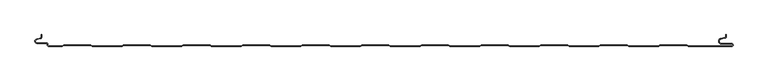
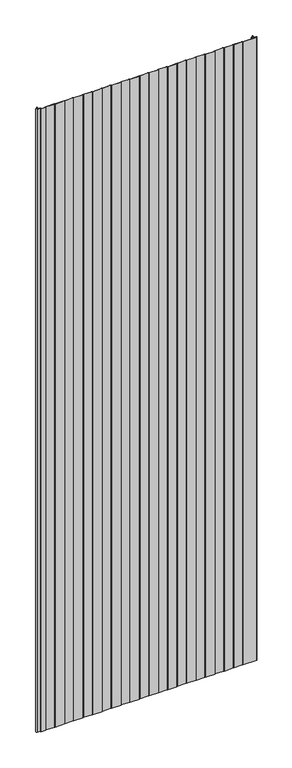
"""IFC4 building model written with IfcOpenShell, lengths in millimetres: plate geometry, PM1_Curtain-Panel_Perfil-Estándar : ACH_PM1_Panel-Acústico-Sectorización_200M."""

import ifcopenshell
import ifcopenshell.guid

model = None  # the IFC model being written
_history = None  # IfcOwnerHistory: only IFC2X3 demands one
_inside = {}  # id of a spatial element -> (the spatial element, [elements in it])
_under = {}  # id of a project, library or spatial element -> (it, [spatial elements below it])
_declared = {}  # id of a project -> (the project, [libraries it declares])
_typed = {}  # id of a type object -> (the type object, [elements of that type])
_made_of = {}  # id of a material, layer set ... -> (it, [elements and type objects made of it])


def new_model(schema):
    """Start an empty IFC model of exactly this schema.

    Asked for "IFC4X3", IfcOpenShell would pick the latest addendum, in which some entities
    have other attributes; the version numbers below select the first issue.
    IFC2X3 requires an IfcOwnerHistory on every rooted entity: one is made here for all.
    """
    global model, _history
    if schema == "IFC4X3":
        model = ifcopenshell.file(schema_version=(4, 3, 0, 0))
    else:
        model = ifcopenshell.file(schema=schema)
    _inside.clear()
    _under.clear()
    _declared.clear()
    _typed.clear()
    _made_of.clear()
    _history = None
    if model.schema == "IFC2X3":
        org = make("IfcOrganization", Name="unknown")
        user = make(
            "IfcPersonAndOrganization",
            ThePerson=make("IfcPerson", FamilyName="unknown"),
            TheOrganization=org,
        )
        app = make(
            "IfcApplication",
            ApplicationDeveloper=org,
            Version="unknown",
            ApplicationFullName="unknown",
            ApplicationIdentifier="unknown",
        )
        _history = make(
            "IfcOwnerHistory",
            OwningUser=user,
            OwningApplication=app,
            ChangeAction="ADDED",
            CreationDate=0,
        )
    return model


def make(cls, **values):
    """One entity of the class cls with the attributes given. An attribute that is None is left unset."""
    return model.create_entity(
        cls, **{name: value for name, value in values.items() if value is not None}
    )


def rooted(cls, **values):
    """An entity with a GlobalId (a new one), such as an element, a storey or a relation."""
    return make(cls, GlobalId=ifcopenshell.guid.new(), OwnerHistory=_history, **values)


def si_unit(unit_type, name, prefix=None):
    """IfcSIUnit, for example si_unit("LENGTHUNIT", "METRE", prefix="MILLI")."""
    return make("IfcSIUnit", UnitType=unit_type, Prefix=prefix, Name=name)


def assignment(units):
    """IfcUnitAssignment: the units of a project."""
    return None if units is None else make("IfcUnitAssignment", Units=units)


def point(xyz):
    """IfcCartesianPoint."""
    return None if xyz is None else make("IfcCartesianPoint", Coordinates=xyz)


def direction(xyz):
    """IfcDirection."""
    return None if xyz is None else make("IfcDirection", DirectionRatios=xyz)


def frame(location, z_axis=None, x_axis=None):
    """IfcAxis2Placement3D, a coordinate frame: its origin and axes. An axis left out is left unset."""
    return make(
        "IfcAxis2Placement3D",
        Location=point(location),
        Axis=direction(z_axis),
        RefDirection=direction(x_axis),
    )


def origin():
    """The frame at (0, 0, 0) with its axes left unset."""
    return frame((0.0, 0.0, 0.0))


def place(relative_to, where):
    """IfcLocalPlacement: puts the frame where relative to a parent placement (None: the world)."""
    return make(
        "IfcLocalPlacement", PlacementRelTo=relative_to, RelativePlacement=where
    )


def context(
    kind, dimensions, precision=None, world=None, true_north=None, identifier=None
):
    """IfcGeometricRepresentationContext, for example the 3D "Model" context."""
    return make(
        "IfcGeometricRepresentationContext",
        ContextIdentifier=identifier,
        ContextType=kind,
        CoordinateSpaceDimension=dimensions,
        Precision=precision,
        WorldCoordinateSystem=world,
        TrueNorth=true_north,
    )


def project(units=None, contexts=None):
    """IfcProject with its units and contexts."""
    return rooted(
        "IfcProject",
        Name="project",
        RepresentationContexts=contexts,
        UnitsInContext=assignment(units),
    )


def spatial(cls, under=None, at=None, **own):
    """A site, building, storey or space (cls), placed at a placement, below another one or the project."""
    s = rooted(cls, ObjectPlacement=at, **own)
    if under is not None:
        _under.setdefault(under.id(), (under, []))[1].append(s)
    return s


def polyline(points):
    """IfcPolyline through the points."""
    return make("IfcPolyline", Points=[point(p) for p in points])


def circle_curve(where, radius):
    """IfcCircle in the frame where."""
    return make("IfcCircle", Position=where, Radius=radius)


def shape(context_of_items, identifier, shape_type, items):
    """IfcShapeRepresentation: the items that make up one representation, for example the "Body"."""
    return make(
        "IfcShapeRepresentation",
        ContextOfItems=context_of_items,
        RepresentationIdentifier=identifier,
        RepresentationType=shape_type,
        Items=items,
    )


def source(mapping_origin, context_of_items, identifier, shape_type, items):
    """IfcRepresentationMap: a shape defined once, which mapped items show again and again."""
    return make(
        "IfcRepresentationMap",
        MappingOrigin=mapping_origin,
        MappedRepresentation=shape(context_of_items, identifier, shape_type, items),
    )


def transform(
    local_origin,
    x_axis=None,
    y_axis=None,
    z_axis=None,
    scale=None,
    scale2=None,
    scale3=None,
    uniform=True,
):
    """IfcCartesianTransformationOperator3D, or its non-uniform kind. x_axis, y_axis, z_axis: its Axis1, 2, 3."""
    if uniform:
        return make(
            "IfcCartesianTransformationOperator3D",
            Axis1=direction(x_axis),
            Axis2=direction(y_axis),
            LocalOrigin=point(local_origin),
            Scale=scale,
            Axis3=direction(z_axis),
        )
    return make(
        "IfcCartesianTransformationOperator3DnonUniform",
        Axis1=direction(x_axis),
        Axis2=direction(y_axis),
        LocalOrigin=point(local_origin),
        Scale=scale,
        Axis3=direction(z_axis),
        Scale2=scale2,
        Scale3=scale3,
    )


def mapped(mapping_source, mapping_target):
    """IfcMappedItem: shows the shape of a source again, moved by a transform."""
    return make(
        "IfcMappedItem", MappingSource=mapping_source, MappingTarget=mapping_target
    )


def made_of(thing, what):
    """Note that an element or type object is made of a material, layer set ...; save() writes the relation."""
    if what is not None:
        _made_of.setdefault(what.id(), (what, []))[1].append(thing)
    return thing


def element(
    cls,
    number,
    at=None,
    inside=None,
    cuts=None,
    type_object=None,
    material=None,
    context=None,
    identifier="Body",
    shape_type=None,
    held_by="IfcProductDefinitionShape",
    body=None,
    shapes=None,
    **own,
):
    """One element of the class cls, such as IfcWall. Its Tag is "e" and its number.

    at: its placement. inside: the storey or other place that contains it. cuts: it is an
    opening in that element (IfcRelVoidsElement). A single representation is given by context,
    identifier, shape_type and body (its items); several are given by shapes. held_by: the class
    of the entity that holds the representations. save() writes the other relations.
    """
    e = rooted(cls, Tag="e%d" % number, ObjectPlacement=at, **own)
    if body is not None:
        shapes = [shape(context, identifier, shape_type, body)]
    if shapes is not None:
        e.Representation = make(held_by, Representations=shapes)
    if inside is not None:
        _inside.setdefault(inside.id(), (inside, []))[1].append(e)
    if cuts is not None:
        rooted(
            "IfcRelVoidsElement", RelatingBuildingElement=cuts, RelatedOpeningElement=e
        )
    if type_object is not None:
        _typed.setdefault(type_object.id(), (type_object, []))[1].append(e)
    return made_of(e, material)


def aggregate(whole, parts):
    """IfcRelAggregates: a whole, such as a stair, and the parts it consists of."""
    return rooted("IfcRelAggregates", RelatingObject=whole, RelatedObjects=parts)


def save(model, path):
    """Write the relations noted so far, then the file.

    IfcRelAggregates (storeys below a building ...), IfcRelContainedInSpatialStructure (elements
    in a storey), IfcRelDefinesByType, IfcRelAssociatesMaterial and IfcRelDeclares: one each for
    every whole, place, type object, material and project.
    """
    for whole, parts in _under.values():
        aggregate(whole, parts)
    for where, things in _inside.values():
        rooted(
            "IfcRelContainedInSpatialStructure",
            RelatedElements=things,
            RelatingStructure=where,
        )
    for kind, things in _typed.values():
        rooted("IfcRelDefinesByType", RelatedObjects=things, RelatingType=kind)
    for what, things in _made_of.values():
        rooted("IfcRelAssociatesMaterial", RelatedObjects=things, RelatingMaterial=what)
    for by, libraries in _declared.values():
        rooted("IfcRelDeclares", RelatingContext=by, RelatedDefinitions=libraries)
    model.write(path)


def plane_surface(at):
    """IfcPlane: the flat surface through the origin of the frame at, square to its z axis."""
    return make("IfcPlane", Position=at)


def cylinder_surface(at, radius):
    """IfcCylindricalSurface: all points at the distance radius from the z axis of the frame at."""
    return make("IfcCylindricalSurface", Position=at, Radius=radius)


def revolved_surface(curve, axis_point, axis_direction):
    """IfcSurfaceOfRevolution: the curve turned about the line through axis_point along axis_direction."""
    return make(
        "IfcSurfaceOfRevolution",
        SweptCurve=make("IfcArbitraryOpenProfileDef", ProfileType="CURVE", Curve=curve),
        AxisPosition=make("IfcAxis1Placement", Location=point(axis_point), Axis=direction(axis_direction)),
    )


def advanced_brep(points, edges, surfaces, faces):
    """IfcAdvancedBrep: a solid bounded by faces that lie on surfaces and meet in shared edges.

    An edge is (start, end): straight between two places in points (the first is 0);
    or (start, end, curve); or (start, end, curve, False) where it runs against its curve.
    A face is (place in surfaces, loops), or (place, loops, False) where it looks against
    its surface's normal. A loop lists edges by number (the first is 1), with a minus sign
    where the edge is run from its end to its start. The first loop is the outer one.
    """
    corners = [point(p) for p in points]
    vertices = [make("IfcVertexPoint", VertexGeometry=c) for c in corners]
    made = []
    for start, end, *more in edges:
        made.append(
            make(
                "IfcEdgeCurve",
                EdgeStart=vertices[start],
                EdgeEnd=vertices[end],
                EdgeGeometry=more[0] if more else make("IfcPolyline", Points=[corners[start], corners[end]]),
                SameSense=more[1] if len(more) > 1 else True,
            )
        )
    hull = []
    for where, loops, *sense in faces:
        bounds = []
        for j, loop in enumerate(loops):
            ring = [make("IfcOrientedEdge", EdgeElement=made[abs(k) - 1], Orientation=k > 0) for k in loop]
            bounds.append(
                make(
                    "IfcFaceOuterBound" if j == 0 else "IfcFaceBound",
                    Bound=make("IfcEdgeLoop", EdgeList=ring),
                    Orientation=True,
                )
            )
        hull.append(make("IfcAdvancedFace", Bounds=bounds, FaceSurface=surfaces[where], SameSense=sense[0] if sense else True))
    return make("IfcAdvancedBrep", Outer=make("IfcClosedShell", CfsFaces=hull))


def plate_293336a9(model_context):
    return source(origin(), model_context, "Body", "AdvancedBrep", [
        advanced_brep(
        [(-562.4, -200.0, 3500.0), (-539.3999999, -200.0, 3500.0), (-536.8019223, -198.5, 3500.0), (-492.0019247, -198.5, 3500.0), (-489.4038471, -200.0, 3500.0), (-439.3999999, -200.0, 3500.0), (-436.8019223, -198.5, 3500.0), (-392.0019247, -198.5, 3500.0), (-389.4038471, -200.0, 3500.0), (-339.3999999, -200.0, 3500.0), (-336.8019223, -198.5, 3500.0), (-292.0019247, -198.5, 3500.0), (-289.4038471, -200.0, 3500.0), (-239.3999999, -200.0, 3500.0), (-236.8019223, -198.5, 3500.0), (-192.0019247, -198.5, 3500.0), (-189.4038471, -200.0, 3500.0), (-139.3999999, -200.0, 3500.0), (-136.8019223, -198.5, 3500.0), (-92.0019247, -198.5, 3500.0), (-89.4038471, -200.0, 3500.0), (-39.3999999, -200.0, 3500.0), (-36.8019223, -198.5, 3500.0), (7.9980753, -198.5, 3500.0), (10.5961529, -200.0, 3500.0), (60.6000001, -200.0, 3500.0), (63.1980777, -198.5, 3500.0), (107.9980753, -198.5, 3500.0), (110.5961529, -200.0, 3500.0), (160.6000001, -200.0, 3500.0), (163.1980777, -198.5, 3500.0), (207.9980753, -198.5, 3500.0), (210.5961529, -200.0, 3500.0), (260.6000001, -200.0, 3500.0), (263.1980777, -198.5, 3500.0), (307.9980753, -198.5, 3500.0), (310.5961529, -200.0, 3500.0), (360.6000001, -200.0, 3500.0), (363.1980777, -198.5, 3500.0), (407.9980753, -198.5, 3500.0), (410.5961529, -200.0, 3500.0), (460.6000001, -200.0, 3500.0), (463.1980777, -198.5, 3500.0), (507.9980753, -198.5, 3500.0), (510.5961529, -200.0, 3500.0), (583.1, -200.0, 3500.0), (585.6, -197.5, 3500.0), (583.1, -195.0, 3500.0), (566.1, -195.0, 3500.0), (565.4054075, -187.060769, 3500.0), (571.8514851, -185.924152, 3500.0), (574.0, -183.363652, 3500.0), (574.0, -180.0, 3500.0), (573.2, -180.0, 3500.0), (573.2, -183.363652, 3500.0), (571.7125666, -185.136306, 3500.0), (565.266489, -186.2729229, 3500.0), (566.1, -195.8, 3500.0), (583.1, -195.8, 3500.0), (583.1, -199.2, 3500.0), (510.8105122, -199.2, 3500.0), (508.2124346, -197.7, 3500.0), (462.9837184, -197.7, 3500.0), (460.3856408, -199.2, 3500.0), (410.8105122, -199.2, 3500.0), (408.2124346, -197.7, 3500.0), (362.9837184, -197.7, 3500.0), (360.3856408, -199.2, 3500.0), (310.8105122, -199.2, 3500.0), (308.2124346, -197.7, 3500.0), (262.9837184, -197.7, 3500.0), (260.3856408, -199.2, 3500.0), (210.8105122, -199.2, 3500.0), (208.2124346, -197.7, 3500.0), (162.9837184, -197.7, 3500.0), (160.3856408, -199.2, 3500.0), (110.8105122, -199.2, 3500.0), (108.2124346, -197.7, 3500.0), (62.9837184, -197.7, 3500.0), (60.3856408, -199.2, 3500.0), (10.8105122, -199.2, 3500.0), (8.2124346, -197.7, 3500.0), (-37.0162816, -197.7, 3500.0), (-39.6143592, -199.2, 3500.0), (-89.1894878, -199.2, 3500.0), (-91.7875654, -197.7, 3500.0), (-137.0162816, -197.7, 3500.0), (-139.6143592, -199.2, 3500.0), (-189.1894878, -199.2, 3500.0), (-191.7875654, -197.7, 3500.0), (-237.0162816, -197.7, 3500.0), (-239.6143592, -199.2, 3500.0), (-289.1894878, -199.2, 3500.0), (-291.7875654, -197.7, 3500.0), (-337.0162816, -197.7, 3500.0), (-339.6143592, -199.2, 3500.0), (-389.1894878, -199.2, 3500.0), (-391.7875654, -197.7, 3500.0), (-437.0162816, -197.7, 3500.0), (-439.6143592, -199.2, 3500.0), (-489.1894878, -199.2, 3500.0), (-491.7875654, -197.7, 3500.0), (-537.0162816, -197.7, 3500.0), (-539.6143592, -199.2, 3500.0), (-562.4, -199.2, 3500.0), (-563.6, -198.0, 3500.0), (-563.6, -196.6, 3500.0), (-566.4, -193.8, 3500.0), (-581.9, -193.8, 3500.0), (-582.529863, -188.2717638, 3500.0), (-576.370137, -186.849679, 3500.0), (-574.2, -184.121443, 3500.0), (-574.2, -180.0, 3500.0), (-575.0, -180.0, 3500.0), (-575.0, -184.121443, 3500.0), (-576.5500978, -186.0701831, 3500.0), (-582.7098239, -187.492268, 3500.0), (-581.9, -194.6, 3500.0), (-566.4, -194.6, 3500.0), (-564.4, -196.6, 3500.0), (-564.4, -198.0, 3500.0), (-562.4, -200.0, 0.0), (-564.4, -198.0, 0.0), (-564.4, -196.6, 0.0), (-566.4, -194.6, 0.0), (-581.9, -194.6, 0.0), (-582.7098239, -187.4922678, 0.0), (-576.5500979, -186.070183, 0.0), (-575.0, -184.121443, 0.0), (-575.0, -180.0, 0.0), (-574.2, -180.0, 0.0), (-574.2, -184.121443, 0.0), (-576.370137, -186.8496792, 0.0), (-582.529863, -188.271764, 0.0), (-581.9, -193.8, 0.0), (-566.4, -193.8, 0.0), (-563.6, -196.6, 0.0), (-563.6, -198.0, 0.0), (-562.4, -199.2, 0.0), (-539.6143592, -199.2, 0.0), (-537.0162816, -197.7, 0.0), (-491.7875654, -197.7, 0.0), (-489.1894878, -199.2, 0.0), (-439.6143592, -199.2, 0.0), (-437.0162816, -197.7, 0.0), (-391.7875654, -197.7, 0.0), (-389.1894878, -199.2, 0.0), (-339.6143592, -199.2, 0.0), (-337.0162816, -197.7, 0.0), (-291.7875654, -197.7, 0.0), (-289.1894878, -199.2, 0.0), (-239.6143592, -199.2, 0.0), (-237.0162816, -197.7, 0.0), (-191.7875654, -197.7, 0.0), (-189.1894878, -199.2, 0.0), (-139.6143592, -199.2, 0.0), (-137.0162816, -197.7, 0.0), (-91.7875654, -197.7, 0.0), (-89.1894878, -199.2, 0.0), (-39.6143592, -199.2, 0.0), (-37.0162816, -197.7, 0.0), (8.2124346, -197.7, 0.0), (10.8105122, -199.2, 0.0), (60.3856408, -199.2, 0.0), (62.9837184, -197.7, 0.0), (108.2124346, -197.7, 0.0), (110.8105122, -199.2, 0.0), (160.3856408, -199.2, 0.0), (162.9837184, -197.7, 0.0), (208.2124346, -197.7, 0.0), (210.8105122, -199.2, 0.0), (260.3856408, -199.2, 0.0), (262.9837184, -197.7, 0.0), (308.2124346, -197.7, 0.0), (310.8105122, -199.2, 0.0), (360.3856408, -199.2, 0.0), (362.9837184, -197.7, 0.0), (408.2124346, -197.7, 0.0), (410.8105122, -199.2, 0.0), (460.3856408, -199.2, 0.0), (462.9837184, -197.7, 0.0), (508.2124346, -197.7, 0.0), (510.8105122, -199.2, 0.0), (583.1, -199.2, 0.0), (583.1, -195.8, 0.0), (566.1, -195.8, 0.0), (565.266489, -186.2729227, 0.0), (571.7125666, -185.1363058, 0.0), (573.2, -183.363652, 0.0), (573.2, -180.0, 0.0), (574.0, -180.0, 0.0), (574.0, -183.363652, 0.0), (571.8514851, -185.9241522, 0.0), (565.4054075, -187.0607691, 0.0), (566.1, -195.0, 0.0), (583.1, -195.0, 0.0), (585.6, -197.5, 0.0), (583.1, -200.0, 0.0), (510.5961529, -200.0, 0.0), (507.9980753, -198.5, 0.0), (463.1980777, -198.5, 0.0), (460.6000001, -200.0, 0.0), (410.5961529, -200.0, 0.0), (407.9980753, -198.5, 0.0), (363.1980777, -198.5, 0.0), (360.6000001, -200.0, 0.0), (310.5961529, -200.0, 0.0), (307.9980753, -198.5, 0.0), (263.1980777, -198.5, 0.0), (260.6000001, -200.0, 0.0), (210.5961529, -200.0, 0.0), (207.9980753, -198.5, 0.0), (163.1980777, -198.5, 0.0), (160.6000001, -200.0, 0.0), (110.5961529, -200.0, 0.0), (107.9980753, -198.5, 0.0), (63.1980777, -198.5, 0.0), (60.6000001, -200.0, 0.0), (10.5961529, -200.0, 0.0), (7.9980753, -198.5, 0.0), (-36.8019223, -198.5, 0.0), (-39.3999999, -200.0, 0.0), (-89.4038471, -200.0, 0.0), (-92.0019247, -198.5, 0.0), (-136.8019223, -198.5, 0.0), (-139.3999999, -200.0, 0.0), (-189.4038471, -200.0, 0.0), (-192.0019247, -198.5, 0.0), (-236.8019223, -198.5, 0.0), (-239.3999999, -200.0, 0.0), (-289.4038471, -200.0, 0.0), (-292.0019247, -198.5, 0.0), (-336.8019223, -198.5, 0.0), (-339.3999999, -200.0, 0.0), (-389.4038471, -200.0, 0.0), (-392.0019247, -198.5, 0.0), (-436.8019223, -198.5, 0.0), (-439.3999999, -200.0, 0.0), (-489.4038471, -200.0, 0.0), (-492.0019247, -198.5, 0.0), (-536.8019223, -198.5, 0.0), (-539.3999999, -200.0, 0.0)],
        [
            (0, 1),
            (1, 2),
            (2, 3),
            (3, 4),
            (4, 5),
            (5, 6),
            (6, 7),
            (7, 8),
            (8, 9),
            (9, 10),
            (10, 11),
            (11, 12),
            (12, 13),
            (13, 14),
            (14, 15),
            (15, 16),
            (16, 17),
            (17, 18),
            (18, 19),
            (19, 20),
            (20, 21),
            (21, 22),
            (22, 23),
            (23, 24),
            (24, 25),
            (25, 26),
            (26, 27),
            (27, 28),
            (28, 29),
            (29, 30),
            (30, 31),
            (31, 32),
            (32, 33),
            (33, 34),
            (34, 35),
            (35, 36),
            (36, 37),
            (37, 38),
            (38, 39),
            (39, 40),
            (40, 41),
            (41, 42),
            (42, 43),
            (43, 44),
            (44, 45),
            (45, 46, circle_curve(frame((583.1, -197.5, 3500.0), z_axis=(0.0, 0.0, 1.0), x_axis=(1.0, 0.0, 0.0)), 2.5)),
            (46, 47, circle_curve(frame((583.1, -197.5, 3500.0), z_axis=(0.0, 0.0, 1.0), x_axis=(1.0, 0.0, 0.0)), 2.5)),
            (47, 48),
            (48, 49, circle_curve(frame((566.1, -191.0, 3500.0), z_axis=(0.0, 0.0, -1.0), x_axis=(1.0, 0.0, 0.0)), 4.0)),
            (49, 50),
            (50, 51, circle_curve(frame((571.4, -183.363652, 3500.0), z_axis=(0.0, 0.0, 1.0), x_axis=(1.0, 0.0, 0.0)), 2.6)),
            (51, 52),
            (52, 53),
            (53, 54),
            (54, 55, circle_curve(frame((571.4, -183.363652, 3500.0), z_axis=(0.0, 0.0, -1.0), x_axis=(1.0, 0.0, 0.0)), 1.8)),
            (55, 56),
            (56, 57, circle_curve(frame((566.1, -191.0, 3500.0), z_axis=(0.0, 0.0, 1.0), x_axis=(1.0, 0.0, 0.0)), 4.8)),
            (57, 58),
            (58, 59, circle_curve(frame((583.1, -197.5, 3500.0), z_axis=(0.0, 0.0, -1.0), x_axis=(1.0, 0.0, 0.0)), 1.7)),
            (59, 60),
            (60, 61),
            (61, 62),
            (62, 63),
            (63, 64),
            (64, 65),
            (65, 66),
            (66, 67),
            (67, 68),
            (68, 69),
            (69, 70),
            (70, 71),
            (71, 72),
            (72, 73),
            (73, 74),
            (74, 75),
            (75, 76),
            (76, 77),
            (77, 78),
            (78, 79),
            (79, 80),
            (80, 81),
            (81, 82),
            (82, 83),
            (83, 84),
            (84, 85),
            (85, 86),
            (86, 87),
            (87, 88),
            (88, 89),
            (89, 90),
            (90, 91),
            (91, 92),
            (92, 93),
            (93, 94),
            (94, 95),
            (95, 96),
            (96, 97),
            (97, 98),
            (98, 99),
            (99, 100),
            (100, 101),
            (101, 102),
            (102, 103),
            (103, 104),
            (104, 105, circle_curve(frame((-562.4, -198.0, 3500.0), z_axis=(0.0, 0.0, -1.0), x_axis=(1.0, 0.0, 0.0)), 1.2)),
            (105, 106),
            (106, 107, circle_curve(frame((-566.4, -196.6, 3500.0), z_axis=(0.0, 0.0, 1.0), x_axis=(1.0, 0.0, 0.0)), 2.8)),
            (107, 108),
            (108, 109, circle_curve(frame((-581.9, -191.0, 3500.0), z_axis=(0.0, 0.0, -1.0), x_axis=(1.0, 0.0, 0.0)), 2.8)),
            (109, 110),
            (110, 111, circle_curve(frame((-577.0, -184.121443, 3500.0), z_axis=(0.0, 0.0, 1.0), x_axis=(1.0, 0.0, 0.0)), 2.8)),
            (111, 112),
            (112, 113),
            (113, 114),
            (114, 115, circle_curve(frame((-577.0, -184.121443, 3500.0), z_axis=(0.0, 0.0, -1.0), x_axis=(1.0, 0.0, 0.0)), 2.0)),
            (115, 116),
            (116, 117, circle_curve(frame((-581.9, -191.0, 3500.0), z_axis=(0.0, 0.0, 1.0), x_axis=(1.0, 0.0, 0.0)), 3.6)),
            (117, 118),
            (118, 119, circle_curve(frame((-566.4, -196.6, 3500.0), z_axis=(0.0, 0.0, -1.0), x_axis=(1.0, 0.0, 0.0)), 2.0)),
            (119, 120),
            (120, 0, circle_curve(frame((-562.4, -198.0, 3500.0), z_axis=(0.0, 0.0, 1.0), x_axis=(1.0, 0.0, 0.0)), 2.0)),
            (121, 122, circle_curve(frame((-562.4, -198.0, 0.0), z_axis=(0.0, 0.0, -1.0), x_axis=(1.0, 0.0, 0.0)), 2.0)),
            (122, 123),
            (123, 124, circle_curve(frame((-566.4, -196.6, 0.0), z_axis=(0.0, 0.0, 1.0), x_axis=(1.0, 0.0, 0.0)), 2.0)),
            (124, 125),
            (125, 126, circle_curve(frame((-581.9, -191.0, 0.0), z_axis=(0.0, 0.0, -1.0), x_axis=(1.0, 0.0, 0.0)), 3.6)),
            (126, 127),
            (127, 128, circle_curve(frame((-577.0, -184.121443, 0.0), z_axis=(0.0, 0.0, 1.0), x_axis=(1.0, 0.0, 0.0)), 2.0)),
            (128, 129),
            (129, 130),
            (130, 131),
            (131, 132, circle_curve(frame((-577.0, -184.121443, 0.0), z_axis=(0.0, 0.0, -1.0), x_axis=(1.0, 0.0, 0.0)), 2.8)),
            (132, 133),
            (133, 134, circle_curve(frame((-581.9, -191.0, 0.0), z_axis=(0.0, 0.0, 1.0), x_axis=(1.0, 0.0, 0.0)), 2.8)),
            (134, 135),
            (135, 136, circle_curve(frame((-566.4, -196.6, 0.0), z_axis=(0.0, 0.0, -1.0), x_axis=(1.0, 0.0, 0.0)), 2.8)),
            (136, 137),
            (137, 138, circle_curve(frame((-562.4, -198.0, 0.0), z_axis=(0.0, 0.0, 1.0), x_axis=(1.0, 0.0, 0.0)), 1.2)),
            (138, 139),
            (139, 140),
            (140, 141),
            (141, 142),
            (142, 143),
            (143, 144),
            (144, 145),
            (145, 146),
            (146, 147),
            (147, 148),
            (148, 149),
            (149, 150),
            (150, 151),
            (151, 152),
            (152, 153),
            (153, 154),
            (154, 155),
            (155, 156),
            (156, 157),
            (157, 158),
            (158, 159),
            (159, 160),
            (160, 161),
            (161, 162),
            (162, 163),
            (163, 164),
            (164, 165),
            (165, 166),
            (166, 167),
            (167, 168),
            (168, 169),
            (169, 170),
            (170, 171),
            (171, 172),
            (172, 173),
            (173, 174),
            (174, 175),
            (175, 176),
            (176, 177),
            (177, 178),
            (178, 179),
            (179, 180),
            (180, 181),
            (181, 182),
            (182, 183),
            (183, 184, circle_curve(frame((583.1, -197.5, 0.0), z_axis=(0.0, 0.0, 1.0), x_axis=(1.0, 0.0, 0.0)), 1.7)),
            (184, 185),
            (185, 186, circle_curve(frame((566.1, -191.0, 0.0), z_axis=(0.0, 0.0, -1.0), x_axis=(1.0, 0.0, 0.0)), 4.8)),
            (186, 187),
            (187, 188, circle_curve(frame((571.4, -183.363652, 0.0), z_axis=(0.0, 0.0, 1.0), x_axis=(1.0, 0.0, 0.0)), 1.8)),
            (188, 189),
            (189, 190),
            (190, 191),
            (191, 192, circle_curve(frame((571.4, -183.363652, 0.0), z_axis=(0.0, 0.0, -1.0), x_axis=(1.0, 0.0, 0.0)), 2.6)),
            (192, 193),
            (193, 194, circle_curve(frame((566.1, -191.0, 0.0), z_axis=(0.0, 0.0, 1.0), x_axis=(1.0, 0.0, 0.0)), 4.0)),
            (194, 195),
            (195, 196, circle_curve(frame((583.1, -197.5, 0.0), z_axis=(0.0, 0.0, -1.0), x_axis=(1.0, 0.0, 0.0)), 2.5)),
            (196, 197, circle_curve(frame((583.1, -197.5, 0.0), z_axis=(0.0, 0.0, -1.0), x_axis=(1.0, 0.0, 0.0)), 2.5)),
            (197, 198),
            (198, 199),
            (199, 200),
            (200, 201),
            (201, 202),
            (202, 203),
            (203, 204),
            (204, 205),
            (205, 206),
            (206, 207),
            (207, 208),
            (208, 209),
            (209, 210),
            (210, 211),
            (211, 212),
            (212, 213),
            (213, 214),
            (214, 215),
            (215, 216),
            (216, 217),
            (217, 218),
            (218, 219),
            (219, 220),
            (220, 221),
            (221, 222),
            (222, 223),
            (223, 224),
            (224, 225),
            (225, 226),
            (226, 227),
            (227, 228),
            (228, 229),
            (229, 230),
            (230, 231),
            (231, 232),
            (232, 233),
            (233, 234),
            (234, 235),
            (235, 236),
            (236, 237),
            (237, 238),
            (238, 239),
            (239, 240),
            (240, 241),
            (241, 121),
            (0, 121),
            (241, 1),
            (240, 2),
            (239, 3),
            (238, 4),
            (237, 5),
            (236, 6),
            (235, 7),
            (234, 8),
            (233, 9),
            (232, 10),
            (231, 11),
            (230, 12),
            (229, 13),
            (228, 14),
            (227, 15),
            (226, 16),
            (225, 17),
            (224, 18),
            (223, 19),
            (222, 20),
            (221, 21),
            (220, 22),
            (219, 23),
            (218, 24),
            (217, 25),
            (216, 26),
            (215, 27),
            (214, 28),
            (213, 29),
            (212, 30),
            (211, 31),
            (210, 32),
            (209, 33),
            (208, 34),
            (207, 35),
            (206, 36),
            (205, 37),
            (204, 38),
            (203, 39),
            (202, 40),
            (201, 41),
            (200, 42),
            (199, 43),
            (198, 44),
            (197, 45),
            (195, 47),
            (194, 48),
            (193, 49),
            (192, 50),
            (191, 51),
            (190, 52),
            (189, 53),
            (188, 54),
            (187, 55),
            (186, 56),
            (185, 57),
            (184, 58),
            (183, 59),
            (182, 60),
            (181, 61),
            (180, 62),
            (179, 63),
            (178, 64),
            (177, 65),
            (176, 66),
            (175, 67),
            (174, 68),
            (173, 69),
            (172, 70),
            (171, 71),
            (170, 72),
            (169, 73),
            (168, 74),
            (167, 75),
            (166, 76),
            (165, 77),
            (164, 78),
            (163, 79),
            (162, 80),
            (161, 81),
            (160, 82),
            (159, 83),
            (158, 84),
            (157, 85),
            (156, 86),
            (155, 87),
            (154, 88),
            (153, 89),
            (152, 90),
            (151, 91),
            (150, 92),
            (149, 93),
            (148, 94),
            (147, 95),
            (146, 96),
            (145, 97),
            (144, 98),
            (143, 99),
            (142, 100),
            (141, 101),
            (140, 102),
            (139, 103),
            (138, 104),
            (137, 105),
            (136, 106),
            (135, 107),
            (134, 108),
            (133, 109),
            (132, 110),
            (131, 111),
            (130, 112),
            (129, 113),
            (128, 114),
            (127, 115),
            (126, 116),
            (125, 117),
            (124, 118),
            (123, 119),
            (122, 120),
        ],
        [
            plane_surface(frame((-575.0, -200.0, 3500.0), z_axis=(0.0, 0.0, 1.0), x_axis=(0.0, 1.0, 0.0))),
            plane_surface(frame((-575.0, -200.0, 0.0), z_axis=(0.0, 0.0, -1.0), x_axis=(0.0, 1.0, 0.0))),
            plane_surface(frame((-562.4, -200.0, 3500.0), z_axis=(0.0, -1.0, 0.0), x_axis=(0.0, 0.0, -1.0))),
            plane_surface(frame((-539.3999999, -200.0, 3500.0), z_axis=(0.49999979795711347, -0.8660255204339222, 0.0), x_axis=(0.0, 0.0, -1.0))),
            plane_surface(frame((-536.8019223, -198.5, 3500.0), z_axis=(0.0, -1.0, 0.0), x_axis=(0.0, 0.0, -1.0))),
            plane_surface(frame((-492.0019247, -198.5, 3500.0), z_axis=(-0.49999979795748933, -0.8660255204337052, 0.0), x_axis=(0.0, 0.0, -1.0))),
            plane_surface(frame((-489.4038471, -200.0, 3500.0), z_axis=(0.0, -1.0, 0.0), x_axis=(0.0, 0.0, -1.0))),
            plane_surface(frame((-439.3999999, -200.0, 3500.0), z_axis=(0.49999979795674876, -0.8660255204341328, 0.0), x_axis=(0.0, 0.0, -1.0))),
            plane_surface(frame((-436.8019223, -198.5, 3500.0), z_axis=(0.0, -1.0, 0.0), x_axis=(0.0, 0.0, -1.0))),
            plane_surface(frame((-392.0019247, -198.5, 3500.0), z_axis=(-0.4999997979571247, -0.8660255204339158, 0.0), x_axis=(0.0, 0.0, -1.0))),
            plane_surface(frame((-389.4038471, -200.0, 3500.0), z_axis=(0.0, -1.0, 0.0), x_axis=(0.0, 0.0, -1.0))),
            plane_surface(frame((-339.3999999, -200.0, 3500.0), z_axis=(0.49999979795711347, -0.8660255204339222, 0.0), x_axis=(0.0, 0.0, -1.0))),
            plane_surface(frame((-336.8019223, -198.5, 3500.0), z_axis=(0.0, -1.0, 0.0), x_axis=(0.0, 0.0, -1.0))),
            plane_surface(frame((-292.0019247, -198.5, 3500.0), z_axis=(-0.4999997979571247, -0.8660255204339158, 0.0), x_axis=(0.0, 0.0, -1.0))),
            plane_surface(frame((-289.4038471, -200.0, 3500.0), z_axis=(0.0, -1.0, 0.0), x_axis=(0.0, 0.0, -1.0))),
            plane_surface(frame((-239.3999999, -200.0, 3500.0), z_axis=(0.49999979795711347, -0.8660255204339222, 0.0), x_axis=(0.0, 0.0, -1.0))),
            plane_surface(frame((-236.8019223, -198.5, 3500.0), z_axis=(0.0, -1.0, 0.0), x_axis=(0.0, 0.0, -1.0))),
            plane_surface(frame((-192.0019247, -198.5, 3500.0), z_axis=(-0.49999979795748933, -0.8660255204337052, 0.0), x_axis=(0.0, 0.0, -1.0))),
            plane_surface(frame((-189.4038471, -200.0, 3500.0), z_axis=(0.0, -1.0, 0.0), x_axis=(0.0, 0.0, -1.0))),
            plane_surface(frame((-139.3999999, -200.0, 3500.0), z_axis=(0.49999979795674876, -0.8660255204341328, 0.0), x_axis=(0.0, 0.0, -1.0))),
            plane_surface(frame((-136.8019223, -198.5, 3500.0), z_axis=(0.0, -1.0, 0.0), x_axis=(0.0, 0.0, -1.0))),
            plane_surface(frame((-92.0019247, -198.5, 3500.0), z_axis=(-0.4999997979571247, -0.8660255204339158, 0.0), x_axis=(0.0, 0.0, -1.0))),
            plane_surface(frame((-89.4038471, -200.0, 3500.0), z_axis=(0.0, -1.0, 0.0), x_axis=(0.0, 0.0, -1.0))),
            plane_surface(frame((-39.3999999, -200.0, 3500.0), z_axis=(0.49999979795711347, -0.8660255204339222, 0.0), x_axis=(0.0, 0.0, -1.0))),
            plane_surface(frame((-36.8019223, -198.5, 3500.0), z_axis=(0.0, -1.0, 0.0), x_axis=(0.0, 0.0, -1.0))),
            plane_surface(frame((7.9980753, -198.5, 3500.0), z_axis=(-0.4999997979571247, -0.8660255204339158, 0.0), x_axis=(0.0, 0.0, -1.0))),
            plane_surface(frame((10.5961529, -200.0, 3500.0), z_axis=(0.0, -1.0, 0.0), x_axis=(0.0, 0.0, -1.0))),
            plane_surface(frame((60.6000001, -200.0, 3500.0), z_axis=(0.49999979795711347, -0.8660255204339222, 0.0), x_axis=(0.0, 0.0, -1.0))),
            plane_surface(frame((63.1980777, -198.5, 3500.0), z_axis=(0.0, -1.0, 0.0), x_axis=(0.0, 0.0, -1.0))),
            plane_surface(frame((107.9980753, -198.5, 3500.0), z_axis=(-0.49999979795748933, -0.8660255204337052, 0.0), x_axis=(0.0, 0.0, -1.0))),
            plane_surface(frame((110.5961529, -200.0, 3500.0), z_axis=(0.0, -1.0, 0.0), x_axis=(0.0, 0.0, -1.0))),
            plane_surface(frame((160.6000001, -200.0, 3500.0), z_axis=(0.49999979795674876, -0.8660255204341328, 0.0), x_axis=(0.0, 0.0, -1.0))),
            plane_surface(frame((163.1980777, -198.5, 3500.0), z_axis=(0.0, -1.0, 0.0), x_axis=(0.0, 0.0, -1.0))),
            plane_surface(frame((207.9980753, -198.5, 3500.0), z_axis=(-0.4999997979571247, -0.8660255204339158, 0.0), x_axis=(0.0, 0.0, -1.0))),
            plane_surface(frame((210.5961529, -200.0, 3500.0), z_axis=(0.0, -1.0, 0.0), x_axis=(0.0, 0.0, -1.0))),
            plane_surface(frame((260.6000001, -200.0, 3500.0), z_axis=(0.49999979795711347, -0.8660255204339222, 0.0), x_axis=(0.0, 0.0, -1.0))),
            plane_surface(frame((263.1980777, -198.5, 3500.0), z_axis=(0.0, -1.0, 0.0), x_axis=(0.0, 0.0, -1.0))),
            plane_surface(frame((307.9980753, -198.5, 3500.0), z_axis=(-0.4999997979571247, -0.8660255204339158, 0.0), x_axis=(0.0, 0.0, -1.0))),
            plane_surface(frame((310.5961529, -200.0, 3500.0), z_axis=(0.0, -1.0, 0.0), x_axis=(0.0, 0.0, -1.0))),
            plane_surface(frame((360.6000001, -200.0, 3500.0), z_axis=(0.49999979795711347, -0.8660255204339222, 0.0), x_axis=(0.0, 0.0, -1.0))),
            plane_surface(frame((363.1980777, -198.5, 3500.0), z_axis=(0.0, -1.0, 0.0), x_axis=(0.0, 0.0, -1.0))),
            plane_surface(frame((407.9980753, -198.5, 3500.0), z_axis=(-0.49999979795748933, -0.8660255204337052, 0.0), x_axis=(0.0, 0.0, -1.0))),
            plane_surface(frame((410.5961529, -200.0, 3500.0), z_axis=(0.0, -1.0, 0.0), x_axis=(0.0, 0.0, -1.0))),
            plane_surface(frame((460.6000001, -200.0, 3500.0), z_axis=(0.49999979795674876, -0.8660255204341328, 0.0), x_axis=(0.0, 0.0, -1.0))),
            plane_surface(frame((463.1980777, -198.5, 3500.0), z_axis=(0.0, -1.0, 0.0), x_axis=(0.0, 0.0, -1.0))),
            plane_surface(frame((507.9980753, -198.5, 3500.0), z_axis=(-0.4999997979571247, -0.8660255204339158, 0.0), x_axis=(0.0, 0.0, -1.0))),
            plane_surface(frame((560.890897, -200.0, 3500.0), z_axis=(0.0, -1.0, 0.0), x_axis=(0.0, 0.0, -1.0))),
            cylinder_surface(frame((583.1, -197.5, 3500.0), z_axis=(0.0, 0.0, 1.0), x_axis=(1.0, 0.0, 0.0)), 2.5),
            plane_surface(frame((583.1, -195.0, 3500.0), z_axis=(0.0, 1.0, 0.0), x_axis=(0.0, 0.0, -1.0))),
            revolved_surface(polyline([(570.1, -191.0, 0.0), (570.1, -191.0, 3500.0)]), (566.1, -191.0, 3500.0), (0.0, 0.0, -1.0)),
            plane_surface(frame((565.4054075, -187.0607691, 3500.0), z_axis=(0.17364813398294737, -0.9848077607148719, 0.0), x_axis=(0.0, 0.0, -1.0))),
            cylinder_surface(frame((571.4, -183.363652, 3500.0), z_axis=(0.0, 0.0, 1.0), x_axis=(1.0, 0.0, 0.0)), 2.6),
            plane_surface(frame((574.0, -183.363652, 3500.0), z_axis=(1.0, 0.0, 0.0), x_axis=(0.0, 0.0, -1.0))),
            plane_surface(frame((574.0, -180.0, 3500.0), z_axis=(0.0, 1.0, 0.0), x_axis=(0.0, 0.0, -1.0))),
            plane_surface(frame((573.2, -180.0, 3500.0), z_axis=(-1.0, 0.0, 0.0), x_axis=(0.0, 0.0, -1.0))),
            revolved_surface(polyline([(573.1999999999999, -183.363652, 0.0), (573.1999999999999, -183.363652, 3500.0)]), (571.4, -183.363652, 3500.0), (0.0, 0.0, -1.0)),
            plane_surface(frame((571.7125666, -185.1363058, 3500.0), z_axis=(-0.17364813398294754, 0.9848077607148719, 0.0), x_axis=(0.0, 0.0, -1.0))),
            cylinder_surface(frame((566.1, -191.0, 3500.0), z_axis=(0.0, 0.0, 1.0), x_axis=(1.0, 0.0, 0.0)), 4.8),
            plane_surface(frame((566.1, -195.8, 3500.0), z_axis=(0.0, -1.0, 0.0), x_axis=(0.0, 0.0, -1.0))),
            revolved_surface(polyline([(584.8000000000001, -197.5, 0.0), (584.8000000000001, -197.5, 3500.0)]), (583.1, -197.5, 3500.0), (0.0, 0.0, -1.0)),
            plane_surface(frame((560.890897, -199.2, 3500.0), z_axis=(0.0, 1.0, 0.0), x_axis=(0.0, 0.0, -1.0))),
            plane_surface(frame((510.8105122, -199.2, 3500.0), z_axis=(0.49999979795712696, 0.8660255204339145, 0.0), x_axis=(0.0, 0.0, -1.0))),
            plane_surface(frame((508.2124346, -197.7, 3500.0), z_axis=(0.0, 1.0, 0.0), x_axis=(0.0, 0.0, -1.0))),
            plane_surface(frame((462.9837184, -197.7, 3500.0), z_axis=(-0.4999997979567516, 0.8660255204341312, 0.0), x_axis=(0.0, 0.0, -1.0))),
            plane_surface(frame((460.3856408, -199.2, 3500.0), z_axis=(0.0, 1.0, 0.0), x_axis=(0.0, 0.0, -1.0))),
            plane_surface(frame((410.8105122, -199.2, 3500.0), z_axis=(0.4999997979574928, 0.8660255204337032, 0.0), x_axis=(0.0, 0.0, -1.0))),
            plane_surface(frame((408.2124346, -197.7, 3500.0), z_axis=(0.0, 1.0, 0.0), x_axis=(0.0, 0.0, -1.0))),
            plane_surface(frame((362.9837184, -197.7, 3500.0), z_axis=(-0.49999979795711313, 0.8660255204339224, 0.0), x_axis=(0.0, 0.0, -1.0))),
            plane_surface(frame((360.3856408, -199.2, 3500.0), z_axis=(0.0, 1.0, 0.0), x_axis=(0.0, 0.0, -1.0))),
            plane_surface(frame((310.8105122, -199.2, 3500.0), z_axis=(0.4999997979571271, 0.8660255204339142, 0.0), x_axis=(0.0, 0.0, -1.0))),
            plane_surface(frame((308.2124346, -197.7, 3500.0), z_axis=(0.0, 1.0, 0.0), x_axis=(0.0, 0.0, -1.0))),
            plane_surface(frame((262.9837184, -197.7, 3500.0), z_axis=(-0.49999979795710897, 0.8660255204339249, 0.0), x_axis=(0.0, 0.0, -1.0))),
            plane_surface(frame((260.3856408, -199.2, 3500.0), z_axis=(0.0, 1.0, 0.0), x_axis=(0.0, 0.0, -1.0))),
            plane_surface(frame((210.8105122, -199.2, 3500.0), z_axis=(0.4999997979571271, 0.8660255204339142, 0.0), x_axis=(0.0, 0.0, -1.0))),
            plane_surface(frame((208.2124346, -197.7, 3500.0), z_axis=(0.0, 1.0, 0.0), x_axis=(0.0, 0.0, -1.0))),
            plane_surface(frame((162.9837184, -197.7, 3500.0), z_axis=(-0.4999997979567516, 0.8660255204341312, 0.0), x_axis=(0.0, 0.0, -1.0))),
            plane_surface(frame((160.3856408, -199.2, 3500.0), z_axis=(0.0, 1.0, 0.0), x_axis=(0.0, 0.0, -1.0))),
            plane_surface(frame((110.8105122, -199.2, 3500.0), z_axis=(0.49999979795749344, 0.8660255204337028, 0.0), x_axis=(0.0, 0.0, -1.0))),
            plane_surface(frame((108.2124346, -197.7, 3500.0), z_axis=(0.0, 1.0, 0.0), x_axis=(0.0, 0.0, -1.0))),
            plane_surface(frame((62.9837184, -197.7, 3500.0), z_axis=(-0.49999979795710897, 0.8660255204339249, 0.0), x_axis=(0.0, 0.0, -1.0))),
            plane_surface(frame((60.3856408, -199.2, 3500.0), z_axis=(0.0, 1.0, 0.0), x_axis=(0.0, 0.0, -1.0))),
            plane_surface(frame((10.8105122, -199.2, 3500.0), z_axis=(0.4999997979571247, 0.8660255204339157, 0.0), x_axis=(0.0, 0.0, -1.0))),
            plane_surface(frame((8.2124346, -197.7, 3500.0), z_axis=(0.0, 1.0, 0.0), x_axis=(0.0, 0.0, -1.0))),
            plane_surface(frame((-37.0162816, -197.7, 3500.0), z_axis=(-0.49999979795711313, 0.8660255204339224, 0.0), x_axis=(0.0, 0.0, -1.0))),
            plane_surface(frame((-39.6143592, -199.2, 3500.0), z_axis=(0.0, 1.0, 0.0), x_axis=(0.0, 0.0, -1.0))),
            plane_surface(frame((-89.1894878, -199.2, 3500.0), z_axis=(0.4999997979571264, 0.8660255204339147, 0.0), x_axis=(0.0, 0.0, -1.0))),
            plane_surface(frame((-91.7875654, -197.7, 3500.0), z_axis=(0.0, 1.0, 0.0), x_axis=(0.0, 0.0, -1.0))),
            plane_surface(frame((-137.0162816, -197.7, 3500.0), z_axis=(-0.49999979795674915, 0.8660255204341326, 0.0), x_axis=(0.0, 0.0, -1.0))),
            plane_surface(frame((-139.6143592, -199.2, 3500.0), z_axis=(0.0, 1.0, 0.0), x_axis=(0.0, 0.0, -1.0))),
            plane_surface(frame((-189.1894878, -199.2, 3500.0), z_axis=(0.49999979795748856, 0.8660255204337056, 0.0), x_axis=(0.0, 0.0, -1.0))),
            plane_surface(frame((-191.7875654, -197.7, 3500.0), z_axis=(0.0, 1.0, 0.0), x_axis=(0.0, 0.0, -1.0))),
            plane_surface(frame((-237.0162816, -197.7, 3500.0), z_axis=(-0.4999997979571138, 0.866025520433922, 0.0), x_axis=(0.0, 0.0, -1.0))),
            plane_surface(frame((-239.6143592, -199.2, 3500.0), z_axis=(0.0, 1.0, 0.0), x_axis=(0.0, 0.0, -1.0))),
            plane_surface(frame((-289.1894878, -199.2, 3500.0), z_axis=(0.49999979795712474, 0.8660255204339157, 0.0), x_axis=(0.0, 0.0, -1.0))),
            plane_surface(frame((-291.7875654, -197.7, 3500.0), z_axis=(0.0, 1.0, 0.0), x_axis=(0.0, 0.0, -1.0))),
            plane_surface(frame((-337.0162816, -197.7, 3500.0), z_axis=(-0.49999979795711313, 0.8660255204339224, 0.0), x_axis=(0.0, 0.0, -1.0))),
            plane_surface(frame((-339.6143592, -199.2, 3500.0), z_axis=(0.0, 1.0, 0.0), x_axis=(0.0, 0.0, -1.0))),
            plane_surface(frame((-389.1894878, -199.2, 3500.0), z_axis=(0.49999979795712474, 0.8660255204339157, 0.0), x_axis=(0.0, 0.0, -1.0))),
            plane_surface(frame((-391.7875654, -197.7, 3500.0), z_axis=(0.0, 1.0, 0.0), x_axis=(0.0, 0.0, -1.0))),
            plane_surface(frame((-437.0162816, -197.7, 3500.0), z_axis=(-0.49999979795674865, 0.8660255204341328, 0.0), x_axis=(0.0, 0.0, -1.0))),
            plane_surface(frame((-439.6143592, -199.2, 3500.0), z_axis=(0.0, 1.0, 0.0), x_axis=(0.0, 0.0, -1.0))),
            plane_surface(frame((-489.1894878, -199.2, 3500.0), z_axis=(0.49999979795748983, 0.866025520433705, 0.0), x_axis=(0.0, 0.0, -1.0))),
            plane_surface(frame((-491.7875654, -197.7, 3500.0), z_axis=(0.0, 1.0, 0.0), x_axis=(0.0, 0.0, -1.0))),
            plane_surface(frame((-537.0162816, -197.7, 3500.0), z_axis=(-0.49999979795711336, 0.8660255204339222, 0.0), x_axis=(0.0, 0.0, -1.0))),
            plane_surface(frame((-539.6143592, -199.2, 3500.0), z_axis=(0.0, 1.0, 0.0), x_axis=(0.0, 0.0, -1.0))),
            revolved_surface(polyline([(-561.1999999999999, -198.0, 0.0), (-561.1999999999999, -198.0, 3500.0)]), (-562.4, -198.0, 3500.0), (0.0, 0.0, -1.0)),
            plane_surface(frame((-563.6, -198.0, 3500.0), z_axis=(1.0, 0.0, 0.0), x_axis=(0.0, 0.0, -1.0))),
            cylinder_surface(frame((-566.4, -196.6, 3500.0), z_axis=(0.0, 0.0, 1.0), x_axis=(1.0, 0.0, 0.0)), 2.8),
            plane_surface(frame((-566.4, -193.8, 3500.0), z_axis=(0.0, 1.0, 0.0), x_axis=(0.0, 0.0, -1.0))),
            revolved_surface(polyline([(-579.1, -191.0, 0.0), (-579.1, -191.0, 3500.0)]), (-581.9, -191.0, 3500.0), (0.0, 0.0, -1.0)),
            plane_surface(frame((-582.529863, -188.271764, 3500.0), z_axis=(0.2249510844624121, -0.9743700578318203, 0.0), x_axis=(0.0, 0.0, -1.0))),
            cylinder_surface(frame((-577.0, -184.121443, 3500.0), z_axis=(0.0, 0.0, 1.0), x_axis=(1.0, 0.0, 0.0)), 2.8),
            plane_surface(frame((-574.2, -184.121443, 3500.0), z_axis=(1.0, 0.0, 0.0), x_axis=(0.0, 0.0, -1.0))),
            plane_surface(frame((-574.2, -180.0, 3500.0), z_axis=(0.0, 1.0, 0.0), x_axis=(0.0, 0.0, -1.0))),
            plane_surface(frame((-575.0, -180.0, 3500.0), z_axis=(-1.0, 0.0, 0.0), x_axis=(0.0, 0.0, -1.0))),
            revolved_surface(polyline([(-575.0, -184.121443, 0.0), (-575.0, -184.121443, 3500.0)]), (-577.0, -184.121443, 3500.0), (0.0, 0.0, -1.0)),
            plane_surface(frame((-576.5500979, -186.070183, 3500.0), z_axis=(-0.22495108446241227, 0.9743700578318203, 0.0), x_axis=(0.0, 0.0, -1.0))),
            cylinder_surface(frame((-581.9, -191.0, 3500.0), z_axis=(0.0, 0.0, 1.0), x_axis=(1.0, 0.0, 0.0)), 3.6),
            plane_surface(frame((-581.9, -194.6, 3500.0), z_axis=(0.0, -1.0, 0.0), x_axis=(0.0, 0.0, -1.0))),
            revolved_surface(polyline([(-564.4, -196.6, 0.0), (-564.4, -196.6, 3500.0)]), (-566.4, -196.6, 3500.0), (0.0, 0.0, -1.0)),
            plane_surface(frame((-564.4, -196.6, 3500.0), z_axis=(-1.0, 0.0, 0.0), x_axis=(0.0, 0.0, -1.0))),
            cylinder_surface(frame((-562.4, -198.0, 3500.0), z_axis=(0.0, 0.0, 1.0), x_axis=(1.0, 0.0, 0.0)), 2.0),
        ],
        [
            (0, [[1, 2, 3, 4, 5, 6, 7, 8, 9, 10, 11, 12, 13, 14, 15, 16, 17, 18, 19, 20, 21, 22, 23, 24, 25, 26, 27, 28, 29, 30, 31, 32, 33, 34, 35, 36, 37, 38, 39, 40, 41, 42, 43, 44, 45, 46, 47, 48, 49, 50, 51, 52, 53, 54, 55, 56, 57, 58, 59, 60, 61, 62, 63, 64, 65, 66, 67, 68, 69, 70, 71, 72, 73, 74, 75, 76, 77, 78, 79, 80, 81, 82, 83, 84, 85, 86, 87, 88, 89, 90, 91, 92, 93, 94, 95, 96, 97, 98, 99, 100, 101, 102, 103, 104, 105, 106, 107, 108, 109, 110, 111, 112, 113, 114, 115, 116, 117, 118, 119, 120, 121]]),
            (1, [[122, 123, 124, 125, 126, 127, 128, 129, 130, 131, 132, 133, 134, 135, 136, 137, 138, 139, 140, 141, 142, 143, 144, 145, 146, 147, 148, 149, 150, 151, 152, 153, 154, 155, 156, 157, 158, 159, 160, 161, 162, 163, 164, 165, 166, 167, 168, 169, 170, 171, 172, 173, 174, 175, 176, 177, 178, 179, 180, 181, 182, 183, 184, 185, 186, 187, 188, 189, 190, 191, 192, 193, 194, 195, 196, 197, 198, 199, 200, 201, 202, 203, 204, 205, 206, 207, 208, 209, 210, 211, 212, 213, 214, 215, 216, 217, 218, 219, 220, 221, 222, 223, 224, 225, 226, 227, 228, 229, 230, 231, 232, 233, 234, 235, 236, 237, 238, 239, 240, 241, 242]]),
            (2, [[-1, 243, -242, 244]]),
            (3, [[-2, -244, -241, 245]]),
            (4, [[-3, -245, -240, 246]]),
            (5, [[-4, -246, -239, 247]]),
            (6, [[-5, -247, -238, 248]]),
            (7, [[-6, -248, -237, 249]]),
            (8, [[-7, -249, -236, 250]]),
            (9, [[-8, -250, -235, 251]]),
            (10, [[-9, -251, -234, 252]]),
            (11, [[-10, -252, -233, 253]]),
            (12, [[-11, -253, -232, 254]]),
            (13, [[-12, -254, -231, 255]]),
            (14, [[-13, -255, -230, 256]]),
            (15, [[-14, -256, -229, 257]]),
            (16, [[-15, -257, -228, 258]]),
            (17, [[-16, -258, -227, 259]]),
            (18, [[-17, -259, -226, 260]]),
            (19, [[-18, -260, -225, 261]]),
            (20, [[-19, -261, -224, 262]]),
            (21, [[-20, -262, -223, 263]]),
            (22, [[-21, -263, -222, 264]]),
            (23, [[-22, -264, -221, 265]]),
            (24, [[-23, -265, -220, 266]]),
            (25, [[-24, -266, -219, 267]]),
            (26, [[-25, -267, -218, 268]]),
            (27, [[-26, -268, -217, 269]]),
            (28, [[-27, -269, -216, 270]]),
            (29, [[-28, -270, -215, 271]]),
            (30, [[-29, -271, -214, 272]]),
            (31, [[-30, -272, -213, 273]]),
            (32, [[-31, -273, -212, 274]]),
            (33, [[-32, -274, -211, 275]]),
            (34, [[-33, -275, -210, 276]]),
            (35, [[-34, -276, -209, 277]]),
            (36, [[-35, -277, -208, 278]]),
            (37, [[-36, -278, -207, 279]]),
            (38, [[-37, -279, -206, 280]]),
            (39, [[-38, -280, -205, 281]]),
            (40, [[-39, -281, -204, 282]]),
            (41, [[-40, -282, -203, 283]]),
            (42, [[-41, -283, -202, 284]]),
            (43, [[-42, -284, -201, 285]]),
            (44, [[-43, -285, -200, 286]]),
            (45, [[-44, -286, -199, 287]]),
            (46, [[-45, -287, -198, 288]]),
            (47, [[-288, -197, -196, 289, -47, -46]]),
            (48, [[-48, -289, -195, 290]]),
            (49, [[-49, -290, -194, 291]]),
            (50, [[-50, -291, -193, 292]]),
            (51, [[-51, -292, -192, 293]]),
            (52, [[-52, -293, -191, 294]]),
            (53, [[-53, -294, -190, 295]]),
            (54, [[-54, -295, -189, 296]]),
            (55, [[-55, -296, -188, 297]]),
            (56, [[-56, -297, -187, 298]]),
            (57, [[-57, -298, -186, 299]]),
            (58, [[-58, -299, -185, 300]]),
            (59, [[-59, -300, -184, 301]]),
            (60, [[-60, -301, -183, 302]]),
            (61, [[-61, -302, -182, 303]]),
            (62, [[-62, -303, -181, 304]]),
            (63, [[-63, -304, -180, 305]]),
            (64, [[-64, -305, -179, 306]]),
            (65, [[-65, -306, -178, 307]]),
            (66, [[-66, -307, -177, 308]]),
            (67, [[-67, -308, -176, 309]]),
            (68, [[-68, -309, -175, 310]]),
            (69, [[-69, -310, -174, 311]]),
            (70, [[-70, -311, -173, 312]]),
            (71, [[-71, -312, -172, 313]]),
            (72, [[-72, -313, -171, 314]]),
            (73, [[-73, -314, -170, 315]]),
            (74, [[-74, -315, -169, 316]]),
            (75, [[-75, -316, -168, 317]]),
            (76, [[-76, -317, -167, 318]]),
            (77, [[-77, -318, -166, 319]]),
            (78, [[-78, -319, -165, 320]]),
            (79, [[-79, -320, -164, 321]]),
            (80, [[-80, -321, -163, 322]]),
            (81, [[-81, -322, -162, 323]]),
            (82, [[-82, -323, -161, 324]]),
            (83, [[-83, -324, -160, 325]]),
            (84, [[-84, -325, -159, 326]]),
            (85, [[-85, -326, -158, 327]]),
            (86, [[-86, -327, -157, 328]]),
            (87, [[-87, -328, -156, 329]]),
            (88, [[-88, -329, -155, 330]]),
            (89, [[-89, -330, -154, 331]]),
            (90, [[-90, -331, -153, 332]]),
            (91, [[-91, -332, -152, 333]]),
            (92, [[-92, -333, -151, 334]]),
            (93, [[-93, -334, -150, 335]]),
            (94, [[-94, -335, -149, 336]]),
            (95, [[-95, -336, -148, 337]]),
            (96, [[-96, -337, -147, 338]]),
            (97, [[-97, -338, -146, 339]]),
            (98, [[-98, -339, -145, 340]]),
            (99, [[-99, -340, -144, 341]]),
            (100, [[-100, -341, -143, 342]]),
            (101, [[-101, -342, -142, 343]]),
            (102, [[-102, -343, -141, 344]]),
            (103, [[-103, -344, -140, 345]]),
            (104, [[-104, -345, -139, 346]]),
            (105, [[-105, -346, -138, 347]]),
            (106, [[-106, -347, -137, 348]]),
            (107, [[-107, -348, -136, 349]]),
            (108, [[-108, -349, -135, 350]]),
            (109, [[-109, -350, -134, 351]]),
            (110, [[-110, -351, -133, 352]]),
            (111, [[-111, -352, -132, 353]]),
            (112, [[-112, -353, -131, 354]]),
            (113, [[-113, -354, -130, 355]]),
            (114, [[-114, -355, -129, 356]]),
            (115, [[-115, -356, -128, 357]]),
            (116, [[-116, -357, -127, 358]]),
            (117, [[-117, -358, -126, 359]]),
            (118, [[-118, -359, -125, 360]]),
            (119, [[-119, -360, -124, 361]]),
            (120, [[-120, -361, -123, 362]]),
            (121, [[-121, -362, -122, -243]]),
        ],
    ),
    ])


if __name__ == "__main__":
    model = new_model("IFC4")
    model_context = context("Model", 3, world=origin())
    ifc_project = project(units=[si_unit("LENGTHUNIT", "METRE", prefix="MILLI")], contexts=[model_context])
    site = spatial("IfcSite", under=ifc_project)
    building = spatial("IfcBuilding", under=site)
    placement = place(None, origin())
    plate_shape = plate_293336a9(model_context)
    element("IfcPlate", 1, ObjectType="PM1_Curtain-Panel_Perfil-Estándar : ACH_PM1_Panel-Acústico-Sectorización_200M", at=placement, inside=building, context=model_context, shape_type="MappedRepresentation", body=[
        mapped(plate_shape, transform((0.0, 0.0, 0.0), x_axis=(1.0, 0.0, 0.0), y_axis=(0.0, 1.0, 0.0), z_axis=(0.0, 0.0, 1.0))),
    ])
    save(model, "model.ifc")
